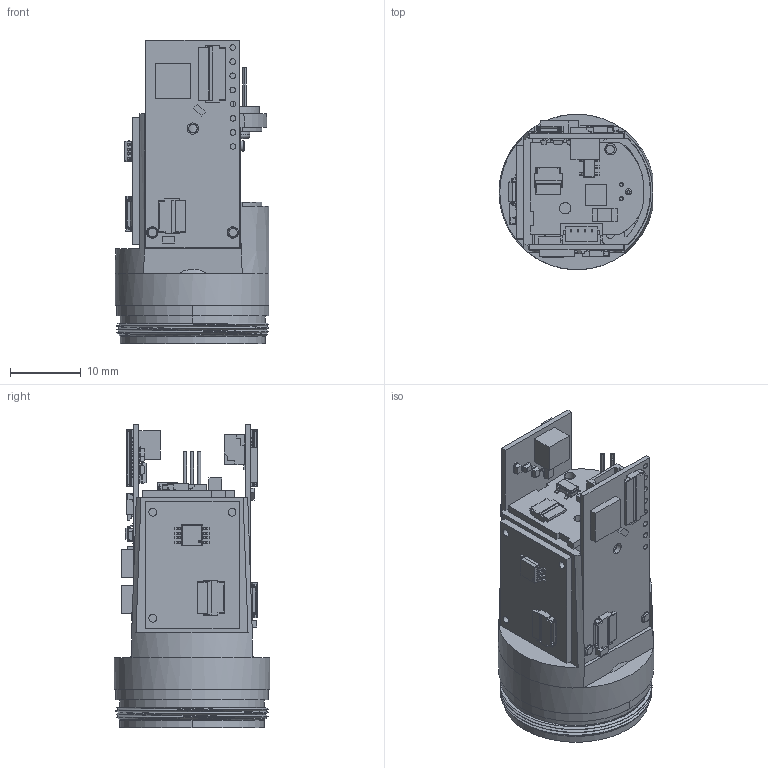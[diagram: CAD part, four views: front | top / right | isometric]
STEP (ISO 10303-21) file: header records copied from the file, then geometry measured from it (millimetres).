
FILE_DESCRIPTION((''),'2;1');
FILE_NAME('TC22-RF-EXTERIOR_SW0001','2024-04-02T11:25:44',('kuangsheng'),(''),'CREO PARAMETRIC BY PTC INC, 2020354','CREO PARAMETRIC BY PTC INC, 2020354','');
FILE_SCHEMA(('CONFIG_CONTROL_DESIGN','SHAPE_APPEARANCE_LAYERS_GROUPS'));
Length unit declared in the file: millimetre
Products named in the file (1): TC22-RF-EXTERIOR_SW0001
Bounding box: 21.75 x 22 x 42.87 mm (x, y, z)
Volume: 9404.1 mm3; surface area: 6612.2 mm2
Topology: 9 solids, 9 shells, 2576 faces, 7102 edges, 4541 vertices
Faces by surface type: plane 1957, cylinder 530, sphere 38, cone 30, torus 13, bspline 6, revolution 2
Entity records: 97839 total; most frequent: CARTESIAN_POINT 20688, ORIENTED_EDGE 14120, DIRECTION 13106, EDGE_CURVE 7060, VECTOR 5782, LINE 5782, VERTEX_POINT 4541, AXIS2_PLACEMENT_3D 3661
